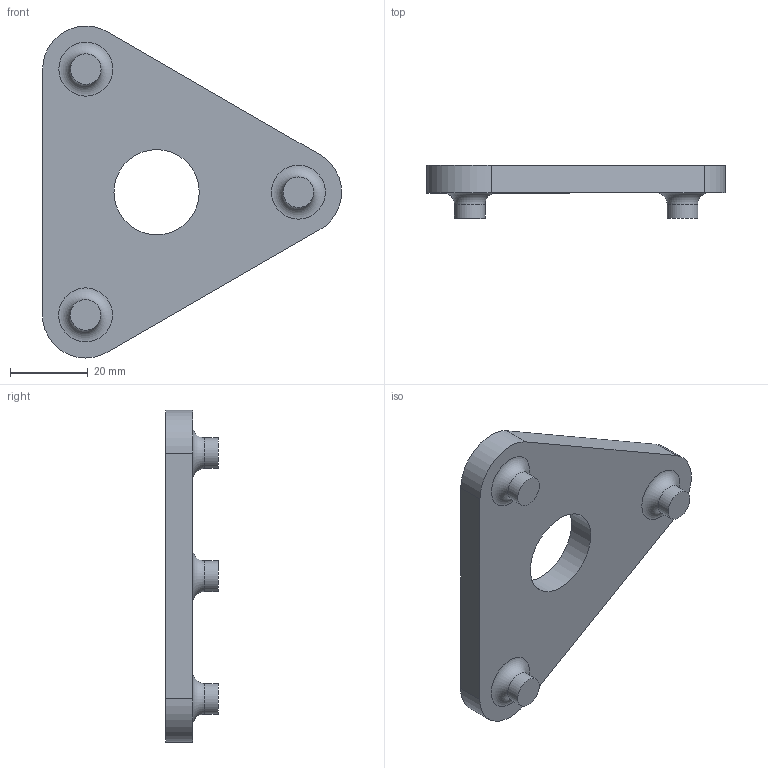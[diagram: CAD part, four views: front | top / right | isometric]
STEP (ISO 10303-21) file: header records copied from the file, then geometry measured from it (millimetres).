
FILE_DESCRIPTION(/* description */ ('STEP AP242 Edition 2','CAx-IF Rec.Pracs.---Representation and Presentation of Product Manufacturing Information (PMI)---4.0---2014-10-13','CAx-IF Rec.Pracs.---3D Tessellated Geometry---0.4---2014-09-14','2;1','CAx-IF Rec.Pracs.---User Defined Attributes---1.5---2016-08-15'),/* implementation_level */ '2;1');
FILE_NAME(/* name */ 'Assembly V2 - Part 4 (2)',/* time_stamp */ '2026-02-05T22:44:42Z',/* author */ (''),/* organization */ (''),/* preprocessor_version */ 'ST-DEVELOPER v20',/* originating_system */ 'ONSHAPE BY PTC INC, 1.210',/* authorisation */ ' ');
FILE_SCHEMA (('AP242_MANAGED_MODEL_BASED_3D_ENGINEERING_MIM_LF { 1 0 10303 442 3 1 4 }'));
Length unit declared in the file: metre
Products named in the file (1): Part 4
Bounding box: 77.15 x 13.6 x 85.61 mm (x, y, z)
Volume: 28168.7 mm3; surface area: 10434 mm2
Topology: 1 solids, 1 shells, 18 faces, 36 edges, 23 vertices
Faces by surface type: plane 8, cylinder 7, torus 3
Full cylindrical faces by diameter (mm): 7.9 x3, 22 x1
Entity records: 464 total; most frequent: DIRECTION 84, CARTESIAN_POINT 71, ORIENTED_EDGE 58, AXIS2_PLACEMENT_3D 36, EDGE_LOOP 30, FACE_BOUND 30, EDGE_CURVE 29, VERTEX_POINT 23
